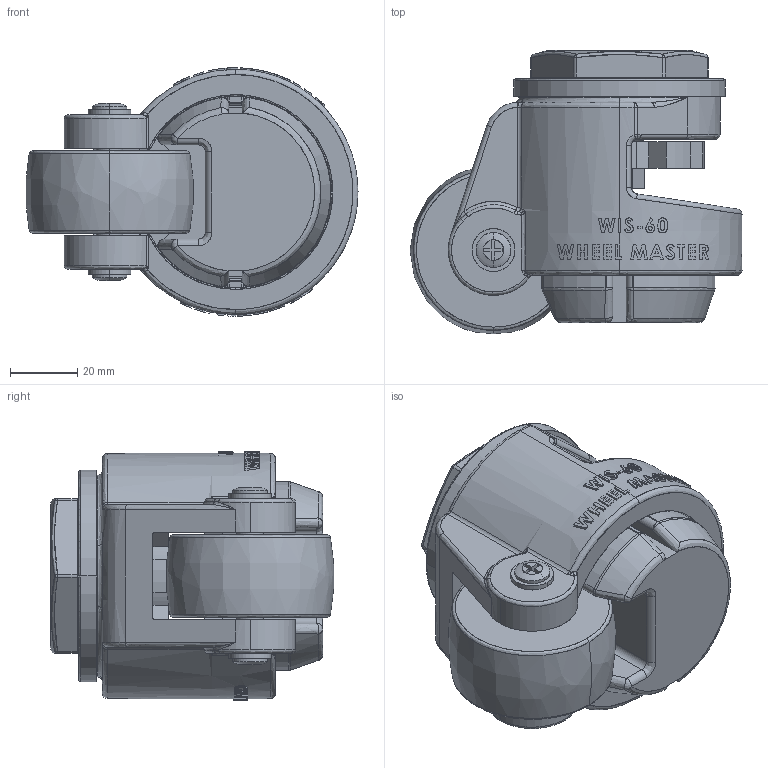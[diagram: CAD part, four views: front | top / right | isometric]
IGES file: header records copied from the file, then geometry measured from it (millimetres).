
Start section: SolidWorks IGES file using analytic representation for surfaces
Global section: file name: 1HH:\辫屈霖累诀\快老墨促肺弊(NEW)\权其捞瘤诀肺靛侩3D\WIS60S.IGS; native system: SolidWorks 2010; preprocessor: SolidWorks 2010; author: Administrator; date: 110129.150536; units: millimetre
Bounding box: 98.88 x 84.38 x 74 mm (x, y, z)
Surface area: 64195.5 mm2 (no closed solid volume)
Topology: 0 solids, 0 shells, 724 faces, 8974 edges, 8948 vertices
Faces by surface type: bspline 504, revolution 220
